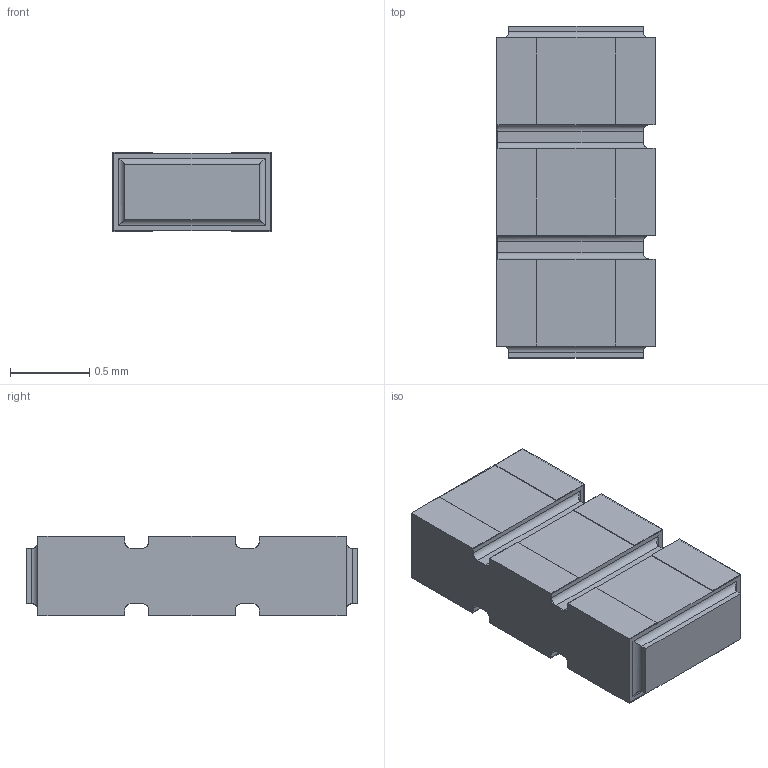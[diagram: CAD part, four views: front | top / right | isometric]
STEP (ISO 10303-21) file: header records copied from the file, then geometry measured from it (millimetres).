
FILE_DESCRIPTION(/* description */ (''),/* implementation_level */ '2;1');
FILE_NAME(/* name */ 'S:\DOCUMENT\AUTOCAD\3D_Modèles\10_3D-pour-VISHAY-COM\PRA\PRA074\PRA074-C2_à_C8\10_IGES\PRA074C3_B-or-N-or-G.stp',/* time_stamp */ '2017-12-19T14:38:04+01:00',/* author */ ('dparmentier'),/* organization */ ('unknown'),/* preprocessor_version */ 'ST-DEVELOPER v17',/* originating_system */ 'Autodesk Inventor 2018',/* authorisation */ '');
FILE_SCHEMA (('AUTOMOTIVE_DESIGN { 1 0 10303 214 3 1 1 }'));
Length unit declared in the file: millimetre
Products named in the file (1): PRA074C3_B-or-N-or-G
Bounding box: 1 x 2.1 x 0.5 mm (x, y, z)
Volume: 1 mm3; surface area: 14.3 mm2
Topology: 5 solids, 5 shells, 124 faces, 320 edges, 208 vertices
Faces by surface type: plane 96, cylinder 28
Entity records: 3765 total; most frequent: CARTESIAN_POINT 653, ORIENTED_EDGE 640, DIRECTION 610, EDGE_CURVE 320, LINE 280, VECTOR 280, VERTEX_POINT 208, AXIS2_PLACEMENT_3D 165
